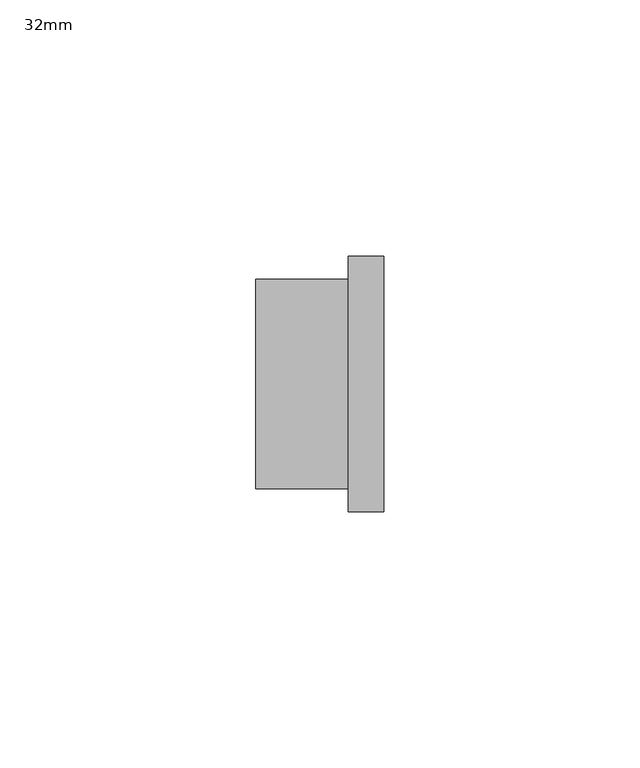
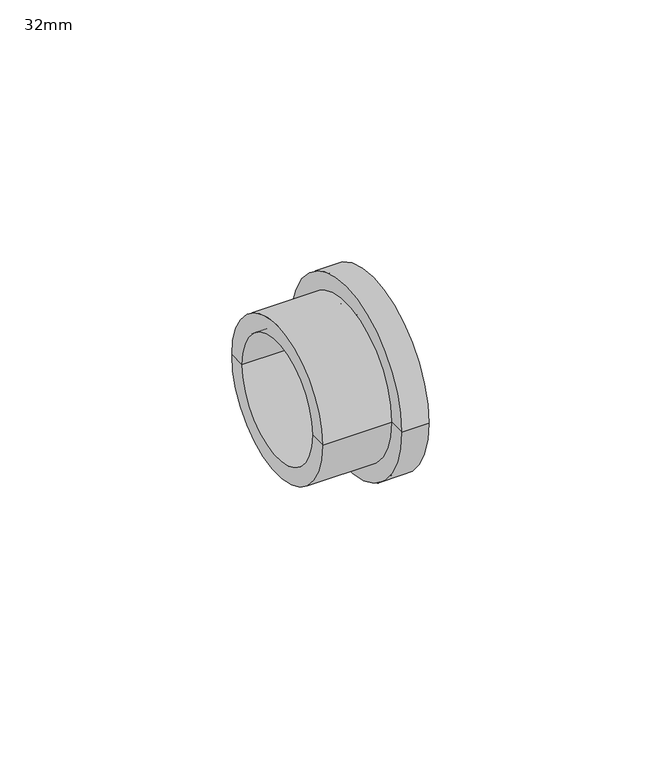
"""IFC4 building model written with IfcOpenShell, lengths in millimetres: pipe fitting geometry, Durapipe_PipeFitting_PVC_StubFlange : 32mm."""

from ifc_helpers import new_model, si_unit, frame, origin, place, context, project, spatial, polyline, circle_curve, source, transform, mapped, element, save
from ifc_brep_helpers import plane_surface, cylinder_surface, revolved_surface, advanced_brep


def pipe_fitting_32mm_910a39b7(model_context):
    return source(origin(), model_context, "Body", "AdvancedBrep", [
        advanced_brep(
        [(12.5, -25.0, 0.0), (12.5, 25.0, 0.0), (12.5, 12.5, 0.0), (12.5, -12.5, 0.0), (5.5, -25.0, 0.0), (5.5, 25.0, 0.0), (5.5, -20.5, 0.0), (5.5, 20.5, 0.0), (-12.5, -20.5, 0.0), (-12.5, 20.5, 0.0), (-12.5, -16.0, 0.0), (-12.5, 16.0, 0.0), (9.5, 12.5, 0.0), (9.5, -12.5, 0.0), (9.5, -16.0, 0.0), (9.5, 16.0, 0.0)],
        [
            (0, 1, circle_curve(frame((12.5, 0.0, 0.0), z_axis=(1.0, 0.0, 0.0), x_axis=(0.0, 1.0, 0.0)), 25.0)),
            (1, 2),
            (2, 3, circle_curve(frame((12.5, 0.0, 0.0), z_axis=(-1.0, 0.0, 0.0), x_axis=(0.0, 1.0, 0.0)), 12.5)),
            (3, 0),
            (1, 0, circle_curve(frame((12.5, 0.0, 0.0), z_axis=(1.0, 0.0, 0.0), x_axis=(0.0, 1.0, 0.0)), 25.0)),
            (3, 2, circle_curve(frame((12.5, 0.0, 0.0), z_axis=(-1.0, 0.0, 0.0), x_axis=(0.0, 1.0, 0.0)), 12.5)),
            (0, 4),
            (4, 5, circle_curve(frame((5.5, 0.0, 0.0), z_axis=(1.0, 0.0, 0.0), x_axis=(0.0, 1.0, 0.0)), 25.0)),
            (5, 1),
            (5, 4, circle_curve(frame((5.5, 0.0, 0.0), z_axis=(1.0, 0.0, 0.0), x_axis=(0.0, 1.0, 0.0)), 25.0)),
            (4, 6),
            (6, 7, circle_curve(frame((5.5, 0.0, 0.0), z_axis=(1.0, 0.0, 0.0), x_axis=(0.0, 1.0, 0.0)), 20.5)),
            (7, 5),
            (7, 6, circle_curve(frame((5.5, 0.0, 0.0), z_axis=(1.0, 0.0, 0.0), x_axis=(0.0, 1.0, 0.0)), 20.5)),
            (6, 8),
            (8, 9, circle_curve(frame((-12.5, 0.0, 0.0), z_axis=(1.0, 0.0, 0.0), x_axis=(0.0, 1.0, 0.0)), 20.5)),
            (9, 7),
            (9, 8, circle_curve(frame((-12.5, 0.0, 0.0), z_axis=(1.0, 0.0, 0.0), x_axis=(0.0, 1.0, 0.0)), 20.5)),
            (8, 10),
            (10, 11, circle_curve(frame((-12.5, 0.0, 0.0), z_axis=(1.0, 0.0, 0.0), x_axis=(0.0, 1.0, 0.0)), 16.0)),
            (11, 9),
            (11, 10, circle_curve(frame((-12.5, 0.0, 0.0), z_axis=(1.0, 0.0, 0.0), x_axis=(0.0, 1.0, 0.0)), 16.0)),
            (2, 12),
            (12, 13, circle_curve(frame((9.5, 0.0, 0.0), z_axis=(-1.0, 0.0, 0.0), x_axis=(0.0, 1.0, 0.0)), 12.5)),
            (13, 3),
            (13, 12, circle_curve(frame((9.5, 0.0, 0.0), z_axis=(-1.0, 0.0, 0.0), x_axis=(0.0, 1.0, 0.0)), 12.5)),
            (10, 14),
            (14, 15, circle_curve(frame((9.5, 0.0, 0.0), z_axis=(1.0, 0.0, 0.0), x_axis=(0.0, 1.0, 0.0)), 16.0)),
            (15, 11),
            (15, 14, circle_curve(frame((9.5, 0.0, 0.0), z_axis=(1.0, 0.0, 0.0), x_axis=(0.0, 1.0, 0.0)), 16.0)),
            (14, 13),
            (12, 15),
        ],
        [
            plane_surface(frame((12.5, 0.0, 0.0), z_axis=(1.0, 0.0, 0.0), x_axis=(0.0, 1.0, 0.0))),
            cylinder_surface(frame((15.6035546, 0.0, 0.0), z_axis=(-1.0, 0.0, 0.0), x_axis=(0.0, 1.0, 0.0)), 25.0),
            plane_surface(frame((5.5, 0.0, 0.0), z_axis=(-1.0, 0.0, 0.0), x_axis=(0.0, 1.0, 0.0))),
            cylinder_surface(frame((15.6035546, 0.0, 0.0), z_axis=(-1.0, 0.0, 0.0), x_axis=(0.0, 1.0, 0.0)), 20.5),
            plane_surface(frame((-12.5, 0.0, 0.0), z_axis=(-1.0, 0.0, 0.0), x_axis=(0.0, 1.0, 0.0))),
            revolved_surface(polyline([(9.5, 12.5, 0.0), (12.5, 12.5, 0.0)]), (15.6035546, 0.0, 0.0), (-1.0, 0.0, 0.0)),
            revolved_surface(polyline([(-12.5, 16.0, 0.0), (9.499999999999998, 16.0, 0.0)]), (-14.3250714, 0.0, 0.0), (-1.0, 0.0, 0.0)),
            plane_surface(frame((9.5, 0.0, 0.0), z_axis=(-1.0, 0.0, 0.0), x_axis=(0.0, 1.0, 0.0))),
        ],
        [
            (0, [[1, 2, 3, 4]]),
            (0, [[-2, 5, -4, 6]]),
            (1, [[-1, 7, 8, 9]]),
            (1, [[-5, -9, 10, -7]]),
            (2, [[-8, 11, 12, 13]]),
            (2, [[-10, -13, 14, -11]]),
            (3, [[-12, 15, 16, 17]]),
            (3, [[-14, -17, 18, -15]]),
            (4, [[-16, 19, 20, 21]]),
            (4, [[-18, -21, 22, -19]]),
            (5, [[-3, 23, 24, 25]]),
            (5, [[-6, -25, 26, -23]]),
            (6, [[27, 28, 29, -20]]),
            (6, [[-27, -22, -29, 30]]),
            (7, [[-28, 31, -24, 32]]),
            (7, [[-30, -32, -26, -31]]),
        ],
    ),
    ])


if __name__ == "__main__":
    model = new_model("IFC4")
    model_context = context("Model", 3, world=origin())
    ifc_project = project(units=[si_unit("LENGTHUNIT", "METRE", prefix="MILLI")], contexts=[model_context])
    site = spatial("IfcSite", under=ifc_project)
    building = spatial("IfcBuilding", under=site)
    placement = place(None, origin())
    pipe_fitting_32mm_shape = pipe_fitting_32mm_910a39b7(model_context)
    element("IfcPipeFitting", 1, ObjectType="Durapipe_PipeFitting_PVC_StubFlange : 32mm", at=placement, inside=building, context=model_context, shape_type="MappedRepresentation", body=[
        mapped(pipe_fitting_32mm_shape, transform((0.0, 0.0, 0.0), x_axis=(1.0, 0.0, 0.0), y_axis=(0.0, 1.0, 0.0), z_axis=(0.0, 0.0, 1.0))),
    ])
    save(model, "model.ifc")
